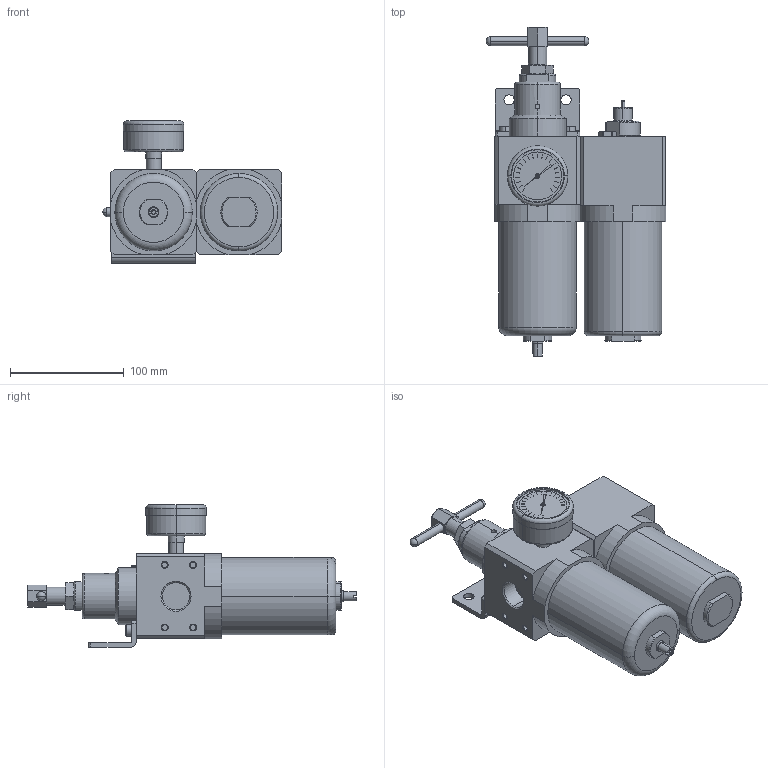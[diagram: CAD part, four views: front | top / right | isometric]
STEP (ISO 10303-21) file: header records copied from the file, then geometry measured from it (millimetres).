
FILE_DESCRIPTION (( 'STEP AP203' ), '1' );
FILE_NAME ('FRL500S-N06.STEP', '2022-04-19T10:22:55', ( '' ), ( '' ), 'SwSTEP 2.0', 'SolidWorks 2019', '' );
FILE_SCHEMA (( 'CONFIG_CONTROL_DESIGN' ));
Length unit declared in the file: millimetre
Products named in the file (1): FRL500S-N06
Bounding box: 157.5 x 289 x 125 mm (x, y, z)
Volume: 1684795.8 mm3; surface area: 154905.5 mm2
Topology: 6 solids, 7 shells, 559 faces, 1301 edges, 827 vertices
Faces by surface type: plane 218, cylinder 205, cone 110, torus 22, sphere 4
Entity records: 17049 total; most frequent: CARTESIAN_POINT 3868, DIRECTION 2894, ORIENTED_EDGE 2594, EDGE_CURVE 1297, AXIS2_PLACEMENT_3D 1141, VERTEX_POINT 827, EDGE_LOOP 654, LINE 612
